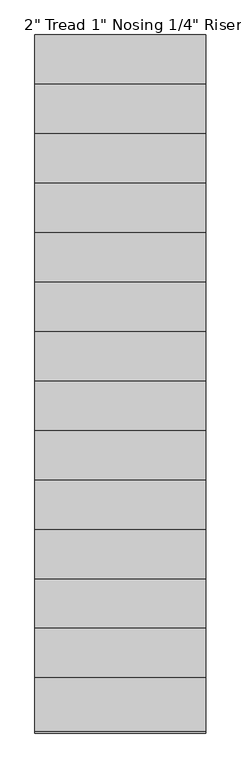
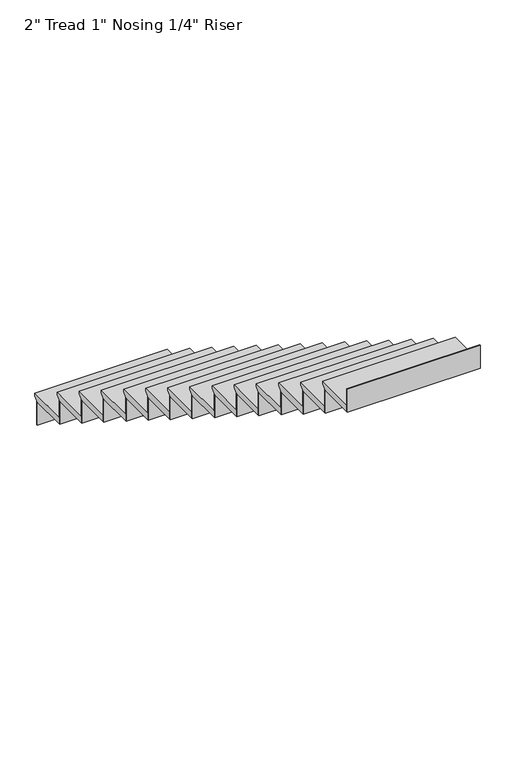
"""IFC4 building model written with IfcOpenShell, lengths in millimetres: stair flight geometry."""

from ifc_helpers import new_model, si_unit, frame, origin, place, context, project, spatial, polyline, outline, extrude, source, transform, mapped, element, save


def stair_flight_a2e6100f(model_context):
    return source(origin(), model_context, "Body", "SweptSolid", [
        extrude(outline(polyline([(3241.8563085, 882.3157895), (3546.6563085, 882.3157895), (3546.6563085, 863.2657895), (3521.2563085, 837.8657895), (3521.2563085, 831.5157895), (3241.8563085, 831.5157895), (3241.8563085, 882.3157895)])), frame((-2739.7571781, 0.0, 0.0), z_axis=(1.0, 0.0, 0.0), x_axis=(0.0, 1.0, 0.0)), (0.0, 0.0, 1.0), 965.2),
        extrude(outline(polyline([(-2739.7571781, 3514.9063085), (-2739.7571781, 3521.2563085), (-1774.5571781, 3521.2563085), (-1774.5571781, 3514.9063085), (-2739.7571781, 3514.9063085)])), frame((0.0, 0.0, 655.0526316), z_axis=(0.0, 0.0, 1.0), x_axis=(1.0, 0.0, 0.0)), (0.0, 0.0, 1.0), 176.4631579),
        extrude(outline(polyline([(-2739.7571781, 3235.5063085), (-2739.7571781, 3241.8563085), (-1774.5571781, 3241.8563085), (-1774.5571781, 3235.5063085), (-2739.7571781, 3235.5063085)])), frame((0.0, 0.0, 831.5157895), z_axis=(0.0, 0.0, 1.0), x_axis=(1.0, 0.0, 0.0)), (0.0, 0.0, 1.0), 176.4631579),
        extrude(outline(polyline([(2962.4563085, 1058.7789474), (3267.2563085, 1058.7789474), (3267.2563085, 1039.7289474), (3241.8563085, 1014.3289474), (3241.8563085, 1007.9789474), (2962.4563085, 1007.9789474), (2962.4563085, 1058.7789474)])), frame((-2739.7571781, 0.0, 0.0), z_axis=(1.0, 0.0, 0.0), x_axis=(0.0, 1.0, 0.0)), (0.0, 0.0, 1.0), 965.2),
        extrude(outline(polyline([(-2739.7571781, 2956.1063085), (-2739.7571781, 2962.4563085), (-1774.5571781, 2962.4563085), (-1774.5571781, 2956.1063085), (-2739.7571781, 2956.1063085)])), frame((0.0, 0.0, 1007.9789474), z_axis=(0.0, 0.0, 1.0), x_axis=(1.0, 0.0, 0.0)), (0.0, 0.0, 1.0), 176.4631579),
        extrude(outline(polyline([(2683.0563085, 1235.2421053), (2987.8563085, 1235.2421053), (2987.8563085, 1216.1921053), (2962.4563085, 1190.7921053), (2962.4563085, 1184.4421053), (2683.0563085, 1184.4421053), (2683.0563085, 1235.2421053)])), frame((-2739.7571781, 0.0, 0.0), z_axis=(1.0, 0.0, 0.0), x_axis=(0.0, 1.0, 0.0)), (0.0, 0.0, 1.0), 965.2),
        extrude(outline(polyline([(-2739.7571781, 2676.7063085), (-2739.7571781, 2683.0563085), (-1774.5571781, 2683.0563085), (-1774.5571781, 2676.7063085), (-2739.7571781, 2676.7063085)])), frame((0.0, 0.0, 1184.4421053), z_axis=(0.0, 0.0, 1.0), x_axis=(1.0, 0.0, 0.0)), (0.0, 0.0, 1.0), 176.4631579),
        extrude(outline(polyline([(2403.6563085, 1411.7052632), (2708.4563085, 1411.7052632), (2708.4563085, 1392.6552632), (2683.0563085, 1367.2552632), (2683.0563085, 1360.9052632), (2403.6563085, 1360.9052632), (2403.6563085, 1411.7052632)])), frame((-2739.7571781, 0.0, 0.0), z_axis=(1.0, 0.0, 0.0), x_axis=(0.0, 1.0, 0.0)), (0.0, 0.0, 1.0), 965.2),
        extrude(outline(polyline([(-2739.7571781, 2397.3063085), (-2739.7571781, 2403.6563085), (-1774.5571781, 2403.6563085), (-1774.5571781, 2397.3063085), (-2739.7571781, 2397.3063085)])), frame((0.0, 0.0, 1360.9052632), z_axis=(0.0, 0.0, 1.0), x_axis=(1.0, 0.0, 0.0)), (0.0, 0.0, 1.0), 176.4631579),
        extrude(outline(polyline([(2124.2563085, 1588.1684211), (2429.0563085, 1588.1684211), (2429.0563085, 1569.1184211), (2403.6563085, 1543.7184211), (2403.6563085, 1537.3684211), (2124.2563085, 1537.3684211), (2124.2563085, 1588.1684211)])), frame((-2739.7571781, 0.0, 0.0), z_axis=(1.0, 0.0, 0.0), x_axis=(0.0, 1.0, 0.0)), (0.0, 0.0, 1.0), 965.2),
        extrude(outline(polyline([(-2739.7571781, 2117.9063085), (-2739.7571781, 2124.2563085), (-1774.5571781, 2124.2563085), (-1774.5571781, 2117.9063085), (-2739.7571781, 2117.9063085)])), frame((0.0, 0.0, 1537.3684211), z_axis=(0.0, 0.0, 1.0), x_axis=(1.0, 0.0, 0.0)), (0.0, 0.0, 1.0), 176.4631579),
        extrude(outline(polyline([(1844.8563085, 1764.6315789), (2149.6563085, 1764.6315789), (2149.6563085, 1745.5815789), (2124.2563085, 1720.1815789), (2124.2563085, 1713.8315789), (1844.8563085, 1713.8315789), (1844.8563085, 1764.6315789)])), frame((-2739.7571781, 0.0, 0.0), z_axis=(1.0, 0.0, 0.0), x_axis=(0.0, 1.0, 0.0)), (0.0, 0.0, 1.0), 965.2),
        extrude(outline(polyline([(-2739.7571781, 1838.5063085), (-2739.7571781, 1844.8563085), (-1774.5571781, 1844.8563085), (-1774.5571781, 1838.5063085), (-2739.7571781, 1838.5063085)])), frame((0.0, 0.0, 1713.8315789), z_axis=(0.0, 0.0, 1.0), x_axis=(1.0, 0.0, 0.0)), (0.0, 0.0, 1.0), 176.4631579),
        extrude(outline(polyline([(1565.4563085, 1941.0947368), (1870.2563085, 1941.0947368), (1870.2563085, 1922.0447368), (1844.8563085, 1896.6447368), (1844.8563085, 1890.2947368), (1565.4563085, 1890.2947368), (1565.4563085, 1941.0947368)])), frame((-2739.7571781, 0.0, 0.0), z_axis=(1.0, 0.0, 0.0), x_axis=(0.0, 1.0, 0.0)), (0.0, 0.0, 1.0), 965.2),
        extrude(outline(polyline([(-2739.7571781, 1559.1063085), (-2739.7571781, 1565.4563085), (-1774.5571781, 1565.4563085), (-1774.5571781, 1559.1063085), (-2739.7571781, 1559.1063085)])), frame((0.0, 0.0, 1890.2947368), z_axis=(0.0, 0.0, 1.0), x_axis=(1.0, 0.0, 0.0)), (0.0, 0.0, 1.0), 176.4631579),
        extrude(outline(polyline([(1286.0563085, 2117.5578947), (1590.8563085, 2117.5578947), (1590.8563085, 2098.5078947), (1565.4563085, 2073.1078947), (1565.4563085, 2066.7578947), (1286.0563085, 2066.7578947), (1286.0563085, 2117.5578947)])), frame((-2739.7571781, 0.0, 0.0), z_axis=(1.0, 0.0, 0.0), x_axis=(0.0, 1.0, 0.0)), (0.0, 0.0, 1.0), 965.2),
        extrude(outline(polyline([(-2739.7571781, 1279.7063085), (-2739.7571781, 1286.0563085), (-1774.5571781, 1286.0563085), (-1774.5571781, 1279.7063085), (-2739.7571781, 1279.7063085)])), frame((0.0, 0.0, 2066.7578947), z_axis=(0.0, 0.0, 1.0), x_axis=(1.0, 0.0, 0.0)), (0.0, 0.0, 1.0), 176.4631579),
        extrude(outline(polyline([(1006.6563085, 2294.0210526), (1311.4563085, 2294.0210526), (1311.4563085, 2274.9710526), (1286.0563085, 2249.5710526), (1286.0563085, 2243.2210526), (1006.6563085, 2243.2210526), (1006.6563085, 2294.0210526)])), frame((-2739.7571781, 0.0, 0.0), z_axis=(1.0, 0.0, 0.0), x_axis=(0.0, 1.0, 0.0)), (0.0, 0.0, 1.0), 965.2),
        extrude(outline(polyline([(-2739.7571781, 1000.3063085), (-2739.7571781, 1006.6563085), (-1774.5571781, 1006.6563085), (-1774.5571781, 1000.3063085), (-2739.7571781, 1000.3063085)])), frame((0.0, 0.0, 2243.2210526), z_axis=(0.0, 0.0, 1.0), x_axis=(1.0, 0.0, 0.0)), (0.0, 0.0, 1.0), 176.4631579),
        extrude(outline(polyline([(727.2563085, 2470.4842105), (1032.0563085, 2470.4842105), (1032.0563085, 2451.4342105), (1006.6563085, 2426.0342105), (1006.6563085, 2419.6842105), (727.2563085, 2419.6842105), (727.2563085, 2470.4842105)])), frame((-2739.7571781, 0.0, 0.0), z_axis=(1.0, 0.0, 0.0), x_axis=(0.0, 1.0, 0.0)), (0.0, 0.0, 1.0), 965.2),
        extrude(outline(polyline([(-2739.7571781, 720.9063085), (-2739.7571781, 727.2563085), (-1774.5571781, 727.2563085), (-1774.5571781, 720.9063085), (-2739.7571781, 720.9063085)])), frame((0.0, 0.0, 2419.6842105), z_axis=(0.0, 0.0, 1.0), x_axis=(1.0, 0.0, 0.0)), (0.0, 0.0, 1.0), 176.4631579),
        extrude(outline(polyline([(447.8563085, 2646.9473684), (752.6563085, 2646.9473684), (752.6563085, 2627.8973684), (727.2563085, 2602.4973684), (727.2563085, 2596.1473684), (447.8563085, 2596.1473684), (447.8563085, 2646.9473684)])), frame((-2739.7571781, 0.0, 0.0), z_axis=(1.0, 0.0, 0.0), x_axis=(0.0, 1.0, 0.0)), (0.0, 0.0, 1.0), 965.2),
        extrude(outline(polyline([(-2739.7571781, 441.5063085), (-2739.7571781, 447.8563085), (-1774.5571781, 447.8563085), (-1774.5571781, 441.5063085), (-2739.7571781, 441.5063085)])), frame((0.0, 0.0, 2596.1473684), z_axis=(0.0, 0.0, 1.0), x_axis=(1.0, 0.0, 0.0)), (0.0, 0.0, 1.0), 176.4631579),
        extrude(outline(polyline([(168.4563085, 2823.4105263), (473.2563085, 2823.4105263), (473.2563085, 2804.3605263), (447.8563085, 2778.9605263), (447.8563085, 2772.6105263), (168.4563085, 2772.6105263), (168.4563085, 2823.4105263)])), frame((-2739.7571781, 0.0, 0.0), z_axis=(1.0, 0.0, 0.0), x_axis=(0.0, 1.0, 0.0)), (0.0, 0.0, 1.0), 965.2),
        extrude(outline(polyline([(-2739.7571781, 162.1063085), (-2739.7571781, 168.4563085), (-1774.5571781, 168.4563085), (-1774.5571781, 162.1063085), (-2739.7571781, 162.1063085)])), frame((0.0, 0.0, 2772.6105263), z_axis=(0.0, 0.0, 1.0), x_axis=(1.0, 0.0, 0.0)), (0.0, 0.0, 1.0), 176.4631579),
        extrude(outline(polyline([(-110.9436915, 2999.8736842), (193.8563085, 2999.8736842), (193.8563085, 2980.8236842), (168.4563085, 2955.4236842), (168.4563085, 2949.0736842), (-110.9436915, 2949.0736842), (-110.9436915, 2999.8736842)])), frame((-2739.7571781, 0.0, 0.0), z_axis=(1.0, 0.0, 0.0), x_axis=(0.0, 1.0, 0.0)), (0.0, 0.0, 1.0), 965.2),
        extrude(outline(polyline([(-2739.7571781, -117.2936915), (-2739.7571781, -110.9436915), (-1774.5571781, -110.9436915), (-1774.5571781, -117.2936915), (-2739.7571781, -117.2936915)])), frame((0.0, 0.0, 2949.0736842), z_axis=(0.0, 0.0, 1.0), x_axis=(1.0, 0.0, 0.0)), (0.0, 0.0, 1.0), 176.4631579),
        extrude(outline(polyline([(-2739.7571781, -396.6936915), (-2739.7571781, -390.3436915), (-1774.5571781, -390.3436915), (-1774.5571781, -396.6936915), (-2739.7571781, -396.6936915)])), frame((0.0, 0.0, 3125.5368421), z_axis=(0.0, 0.0, 1.0), x_axis=(1.0, 0.0, 0.0)), (0.0, 0.0, 1.0), 176.4631579),
        extrude(outline(polyline([(-390.3436915, 3176.3368421), (-85.5436915, 3176.3368421), (-85.5436915, 3157.2868421), (-110.9436915, 3131.8868421), (-110.9436915, 3125.5368421), (-390.3436915, 3125.5368421), (-390.3436915, 3176.3368421)])), frame((-2739.7571781, 0.0, 0.0), z_axis=(1.0, 0.0, 0.0), x_axis=(0.0, 1.0, 0.0)), (0.0, 0.0, 1.0), 965.2),
    ])


if __name__ == "__main__":
    model = new_model("IFC4")
    model_context = context("Model", 3, world=origin())
    ifc_project = project(units=[si_unit("LENGTHUNIT", "METRE", prefix="MILLI")], contexts=[model_context])
    site = spatial("IfcSite", under=ifc_project)
    building = spatial("IfcBuilding", under=site)
    placement = place(None, origin())
    stair_flight_shape = stair_flight_a2e6100f(model_context)
    element("IfcStairFlight", 1, ObjectType="2\" Tread 1\" Nosing 1/4\" Riser", at=placement, inside=building, context=model_context, shape_type="MappedRepresentation", body=[
        mapped(stair_flight_shape, transform((0.0, 0.0, 0.0), x_axis=(1.0, 0.0, 0.0), y_axis=(0.0, 1.0, 0.0), z_axis=(0.0, 0.0, 1.0))),
    ])
    save(model, "model.ifc")
